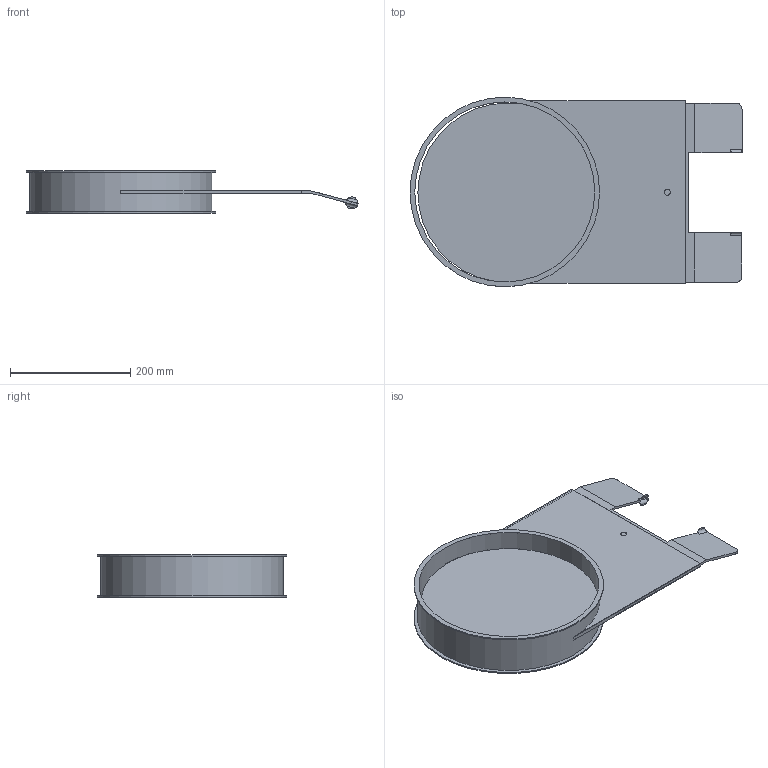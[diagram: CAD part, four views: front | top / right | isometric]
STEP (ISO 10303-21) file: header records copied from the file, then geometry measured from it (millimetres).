
FILE_DESCRIPTION((''),'2;1');
FILE_NAME('U:\Wolfgang\Marcel-3D\fertig\Kapitel 9\3021079.stp','2011-10-11T13:05:31',('iwienholt'),(''),'Autodesk Inventor 2010','Autodesk Inventor 2010','');
FILE_SCHEMA(('AUTOMOTIVE_DESIGN { 1 0 10303 214 1 1 1 1 }'));
Length unit declared in the file: millimetre
Products named in the file (3): 3021079; Rohr mit Führung DN300 ohne; Schieberblech DN300 ohne
Assembly tree (2 placements, depth 2):
  3021079
    Rohr mit Führung DN300 ohne
    Schieberblech DN300 ohne
Bounding box: 551.58 x 315 x 70 mm (x, y, z)
Volume: 833651 mm3; surface area: 667071.7 mm2
Topology: 2 solids, 2 shells, 50 faces, 133 edges, 89 vertices
Faces by surface type: plane 30, cylinder 13, bspline 7
Full cylindrical faces by diameter (mm): 20 x2, 299 x1, 303 x1, 315 x2
Entity records: 1669 total; most frequent: CARTESIAN_POINT 399, ORIENTED_EDGE 244, DIRECTION 238, EDGE_CURVE 122, VERTEX_POINT 84, VECTOR 84, LINE 84, AXIS2_PLACEMENT_3D 77
